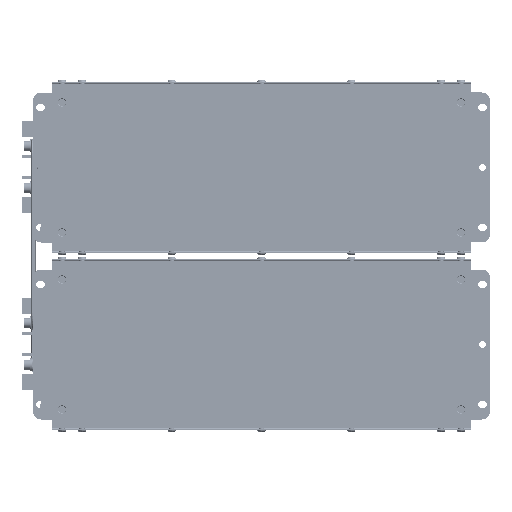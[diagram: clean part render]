
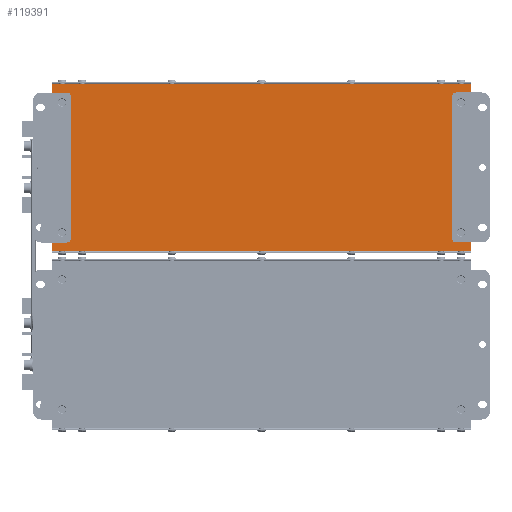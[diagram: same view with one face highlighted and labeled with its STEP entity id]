
A CAD part, front view. The second image highlights one B-rep face of the part: STEP entity #119391.
In plain terms, the highlighted planar face has unit normal (0, -1, 0).
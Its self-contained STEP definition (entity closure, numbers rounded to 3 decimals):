
#7545=PLANE('',#126651);
#10871=LINE('',#169786,#20527);
#10876=LINE('',#169797,#20532);
#10880=LINE('',#169807,#20536);
#10911=LINE('',#169921,#20567);
#10916=LINE('',#169932,#20572);
#10920=LINE('',#169942,#20576);
#11647=LINE('',#179885,#21303);
#11648=LINE('',#179886,#21304);
#14242=LINE('',#198359,#23898);
#14248=LINE('',#198370,#23904);
#14249=LINE('',#198372,#23905);
#14250=LINE('',#198373,#23906);
#20527=VECTOR('',#135447,0.394);
#20532=VECTOR('',#135458,0.394);
#20536=VECTOR('',#135468,0.394);
#20567=VECTOR('',#135589,0.394);
#20572=VECTOR('',#135600,0.394);
#20576=VECTOR('',#135610,0.394);
#21303=VECTOR('',#138915,0.394);
#21304=VECTOR('',#138916,0.394);
#23898=VECTOR('',#145646,0.394);
#23904=VECTOR('',#145654,0.394);
#23905=VECTOR('',#145655,0.394);
#23906=VECTOR('',#145656,0.394);
#32754=FACE_OUTER_BOUND('',#38993,.T.);
#38993=EDGE_LOOP('',(#95061,#95062,#95063,#95064,#95065,#95066,#95067,#95068,
#95069,#95070,#95071,#95072,#95073,#95074,#95075,#95076));
#42575=CIRCLE('',#123238,0.157);
#42576=CIRCLE('',#123241,0.157);
#42601=CIRCLE('',#123289,0.157);
#42602=CIRCLE('',#123292,0.157);
#48267=VERTEX_POINT('',#169784);
#48268=VERTEX_POINT('',#169785);
#48270=VERTEX_POINT('',#169792);
#48271=VERTEX_POINT('',#169796);
#48272=VERTEX_POINT('',#169800);
#48274=VERTEX_POINT('',#169805);
#48311=VERTEX_POINT('',#169919);
#48312=VERTEX_POINT('',#169920);
#48314=VERTEX_POINT('',#169927);
#48315=VERTEX_POINT('',#169931);
#48316=VERTEX_POINT('',#169935);
#48318=VERTEX_POINT('',#169940);
#49440=VERTEX_POINT('',#179878);
#49443=VERTEX_POINT('',#179883);
#53096=VERTEX_POINT('',#198356);
#53102=VERTEX_POINT('',#198371);
#61889=EDGE_CURVE('',#48267,#48268,#10871,.T.);
#61893=EDGE_CURVE('',#48268,#48270,#42575,.T.);
#61895=EDGE_CURVE('',#48270,#48271,#10876,.T.);
#61897=EDGE_CURVE('',#48271,#48272,#42576,.T.);
#61900=EDGE_CURVE('',#48272,#48274,#10880,.T.);
#61955=EDGE_CURVE('',#48311,#48312,#10911,.T.);
#61959=EDGE_CURVE('',#48312,#48314,#42601,.T.);
#61961=EDGE_CURVE('',#48314,#48315,#10916,.T.);
#61963=EDGE_CURVE('',#48315,#48316,#42602,.T.);
#61966=EDGE_CURVE('',#48316,#48318,#10920,.T.);
#63636=EDGE_CURVE('',#49443,#48274,#11647,.T.);
#63637=EDGE_CURVE('',#48267,#49440,#11648,.T.);
#68373=EDGE_CURVE('',#53096,#49443,#14242,.T.);
#68379=EDGE_CURVE('',#48311,#53096,#14248,.T.);
#68380=EDGE_CURVE('',#53102,#48318,#14249,.T.);
#68381=EDGE_CURVE('',#49440,#53102,#14250,.T.);
#95061=ORIENTED_EDGE('',*,*,#61900,.T.);
#95062=ORIENTED_EDGE('',*,*,#63636,.F.);
#95063=ORIENTED_EDGE('',*,*,#68373,.F.);
#95064=ORIENTED_EDGE('',*,*,#68379,.F.);
#95065=ORIENTED_EDGE('',*,*,#61955,.T.);
#95066=ORIENTED_EDGE('',*,*,#61959,.T.);
#95067=ORIENTED_EDGE('',*,*,#61961,.T.);
#95068=ORIENTED_EDGE('',*,*,#61963,.T.);
#95069=ORIENTED_EDGE('',*,*,#61966,.T.);
#95070=ORIENTED_EDGE('',*,*,#68380,.F.);
#95071=ORIENTED_EDGE('',*,*,#68381,.F.);
#95072=ORIENTED_EDGE('',*,*,#63637,.F.);
#95073=ORIENTED_EDGE('',*,*,#61889,.T.);
#95074=ORIENTED_EDGE('',*,*,#61893,.T.);
#95075=ORIENTED_EDGE('',*,*,#61895,.T.);
#95076=ORIENTED_EDGE('',*,*,#61897,.T.);
#119391=ADVANCED_FACE('',(#32754),#7545,.F.);
#123238=AXIS2_PLACEMENT_3D('',#169793,#135453,#135454);
#123241=AXIS2_PLACEMENT_3D('',#169801,#135462,#135463);
#123289=AXIS2_PLACEMENT_3D('',#169928,#135595,#135596);
#123292=AXIS2_PLACEMENT_3D('',#169936,#135604,#135605);
#126651=AXIS2_PLACEMENT_3D('',#198369,#145652,#145653);
#135447=DIRECTION('',(1.,0.,0.));
#135453=DIRECTION('center_axis',(0.,1.,0.));
#135454=DIRECTION('ref_axis',(1.,0.,0.));
#135458=DIRECTION('',(0.,0.,-1.));
#135462=DIRECTION('center_axis',(0.,1.,0.));
#135463=DIRECTION('ref_axis',(0.,0.,
-1.));
#135468=DIRECTION('',(-1.,0.,0.));
#135589=DIRECTION('',(-1.,0.,0.));
#135595=DIRECTION('center_axis',(0.,1.,0.));
#135596=DIRECTION('ref_axis',(-1.,0.,0.));
#135600=DIRECTION('',(0.,0.,1.));
#135604=DIRECTION('center_axis',(0.,1.,0.));
#135605=DIRECTION('ref_axis',(0.,0.,
1.));
#135610=DIRECTION('',(1.,0.,0.));
#138915=DIRECTION('',(0.,0.,1.));
#138916=DIRECTION('',(0.,0.,1.));
#145646=DIRECTION('',(-1.,0.,0.));
#145652=DIRECTION('center_axis',(0.,1.,0.));
#145653=DIRECTION('ref_axis',(0.,0.,
1.));
#145654=DIRECTION('',(0.,0.,-1.));
#145655=DIRECTION('',(0.,0.,-1.));
#145656=DIRECTION('',(1.,0.,0.));
#169784=CARTESIAN_POINT('',(-16.627,0.,6.455));
#169785=CARTESIAN_POINT('',(-16.036,0.,6.455));
#169786=CARTESIAN_POINT('',(-12.208,0.,6.455));
#169792=CARTESIAN_POINT('',(-15.879,0.,6.298));
#169793=CARTESIAN_POINT('Origin',(-16.036,0.,
6.298));
#169796=CARTESIAN_POINT('',(-15.879,0.,0.707));
#169797=CARTESIAN_POINT('',(-15.879,0.,2.105));
#169800=CARTESIAN_POINT('',(-16.036,0.,0.55));
#169801=CARTESIAN_POINT('Origin',(-16.036,0.,
0.707));
#169805=CARTESIAN_POINT('',(-16.627,0.,0.55));
#169807=CARTESIAN_POINT('',(-12.719,0.,0.55));
#169919=CARTESIAN_POINT('',(-0.131,0.,0.55));
#169920=CARTESIAN_POINT('',(-0.721,0.,0.55));
#169921=CARTESIAN_POINT('',(-4.55,0.,0.55));
#169927=CARTESIAN_POINT('',(-0.879,0.,0.707));
#169928=CARTESIAN_POINT('Origin',(-0.721,0.,
0.707));
#169931=CARTESIAN_POINT('',(-0.879,0.,6.298));
#169932=CARTESIAN_POINT('',(-0.879,0.,4.9));
#169935=CARTESIAN_POINT('',(-0.721,0.,6.455));
#169936=CARTESIAN_POINT('Origin',(-0.721,0.,
6.298));
#169940=CARTESIAN_POINT('',(-0.131,0.,6.455));
#169942=CARTESIAN_POINT('',(-4.038,0.,6.455));
#179878=CARTESIAN_POINT('',(-16.627,0.,6.794));
#179883=CARTESIAN_POINT('',(-16.627,0.,0.211));
#179885=CARTESIAN_POINT('',(-16.627,0.,0.211));
#179886=CARTESIAN_POINT('',(-16.627,0.,0.211));
#198356=CARTESIAN_POINT('',(-0.131,0.,0.211));
#198359=CARTESIAN_POINT('',(-0.131,0.,0.211));
#198369=CARTESIAN_POINT('Origin',(-8.379,0.,
3.502));
#198370=CARTESIAN_POINT('',(-0.131,0.,6.794));
#198371=CARTESIAN_POINT('',(-0.131,0.,6.794));
#198372=CARTESIAN_POINT('',(-0.131,0.,6.794));
#198373=CARTESIAN_POINT('',(-16.627,0.,6.794));
